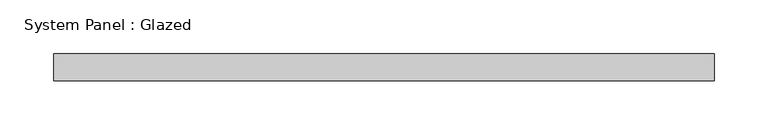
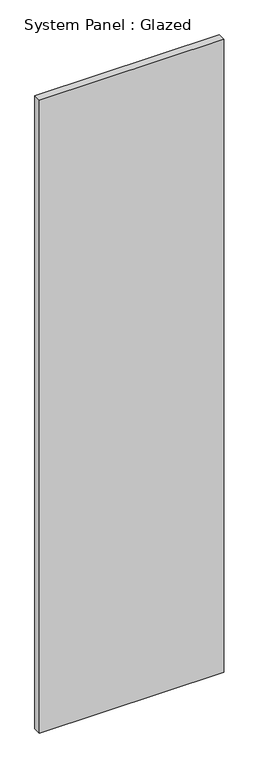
"""IFC4 building model written with IfcOpenShell, lengths in millimetres: plate geometry, System Panel : Glazed."""

import ifcopenshell
import ifcopenshell.guid

model = None  # the IFC model being written
_history = None  # IfcOwnerHistory: only IFC2X3 demands one
_inside = {}  # id of a spatial element -> (the spatial element, [elements in it])
_under = {}  # id of a project, library or spatial element -> (it, [spatial elements below it])
_declared = {}  # id of a project -> (the project, [libraries it declares])
_typed = {}  # id of a type object -> (the type object, [elements of that type])
_made_of = {}  # id of a material, layer set ... -> (it, [elements and type objects made of it])


def new_model(schema):
    """Start an empty IFC model of exactly this schema.

    Asked for "IFC4X3", IfcOpenShell would pick the latest addendum, in which some entities
    have other attributes; the version numbers below select the first issue.
    IFC2X3 requires an IfcOwnerHistory on every rooted entity: one is made here for all.
    """
    global model, _history
    if schema == "IFC4X3":
        model = ifcopenshell.file(schema_version=(4, 3, 0, 0))
    else:
        model = ifcopenshell.file(schema=schema)
    _inside.clear()
    _under.clear()
    _declared.clear()
    _typed.clear()
    _made_of.clear()
    _history = None
    if model.schema == "IFC2X3":
        org = make("IfcOrganization", Name="unknown")
        user = make(
            "IfcPersonAndOrganization",
            ThePerson=make("IfcPerson", FamilyName="unknown"),
            TheOrganization=org,
        )
        app = make(
            "IfcApplication",
            ApplicationDeveloper=org,
            Version="unknown",
            ApplicationFullName="unknown",
            ApplicationIdentifier="unknown",
        )
        _history = make(
            "IfcOwnerHistory",
            OwningUser=user,
            OwningApplication=app,
            ChangeAction="ADDED",
            CreationDate=0,
        )
    return model


def make(cls, **values):
    """One entity of the class cls with the attributes given. An attribute that is None is left unset."""
    return model.create_entity(
        cls, **{name: value for name, value in values.items() if value is not None}
    )


def rooted(cls, **values):
    """An entity with a GlobalId (a new one), such as an element, a storey or a relation."""
    return make(cls, GlobalId=ifcopenshell.guid.new(), OwnerHistory=_history, **values)


def si_unit(unit_type, name, prefix=None):
    """IfcSIUnit, for example si_unit("LENGTHUNIT", "METRE", prefix="MILLI")."""
    return make("IfcSIUnit", UnitType=unit_type, Prefix=prefix, Name=name)


def assignment(units):
    """IfcUnitAssignment: the units of a project."""
    return None if units is None else make("IfcUnitAssignment", Units=units)


def point(xyz):
    """IfcCartesianPoint."""
    return None if xyz is None else make("IfcCartesianPoint", Coordinates=xyz)


def direction(xyz):
    """IfcDirection."""
    return None if xyz is None else make("IfcDirection", DirectionRatios=xyz)


def frame(location, z_axis=None, x_axis=None):
    """IfcAxis2Placement3D, a coordinate frame: its origin and axes. An axis left out is left unset."""
    return make(
        "IfcAxis2Placement3D",
        Location=point(location),
        Axis=direction(z_axis),
        RefDirection=direction(x_axis),
    )


def origin():
    """The frame at (0, 0, 0) with its axes left unset."""
    return frame((0.0, 0.0, 0.0))


def origin_with_axes():
    """The frame at (0, 0, 0) with the z axis (0, 0, 1) and the x axis (1, 0, 0) written out."""
    return frame((0.0, 0.0, 0.0), z_axis=(0.0, 0.0, 1.0), x_axis=(1.0, 0.0, 0.0))


def place(relative_to, where):
    """IfcLocalPlacement: puts the frame where relative to a parent placement (None: the world)."""
    return make(
        "IfcLocalPlacement", PlacementRelTo=relative_to, RelativePlacement=where
    )


def context(
    kind, dimensions, precision=None, world=None, true_north=None, identifier=None
):
    """IfcGeometricRepresentationContext, for example the 3D "Model" context."""
    return make(
        "IfcGeometricRepresentationContext",
        ContextIdentifier=identifier,
        ContextType=kind,
        CoordinateSpaceDimension=dimensions,
        Precision=precision,
        WorldCoordinateSystem=world,
        TrueNorth=true_north,
    )


def project(units=None, contexts=None):
    """IfcProject with its units and contexts."""
    return rooted(
        "IfcProject",
        Name="project",
        RepresentationContexts=contexts,
        UnitsInContext=assignment(units),
    )


def spatial(cls, under=None, at=None, **own):
    """A site, building, storey or space (cls), placed at a placement, below another one or the project."""
    s = rooted(cls, ObjectPlacement=at, **own)
    if under is not None:
        _under.setdefault(under.id(), (under, []))[1].append(s)
    return s


def polyline(points):
    """IfcPolyline through the points."""
    return make("IfcPolyline", Points=[point(p) for p in points])


def outline(outer, holes=None, kind="AREA"):
    """IfcArbitraryClosedProfileDef: a profile drawn as a closed curve; with holes, ...WithVoids."""
    if holes is None:
        return make("IfcArbitraryClosedProfileDef", ProfileType=kind, OuterCurve=outer)
    return make(
        "IfcArbitraryProfileDefWithVoids",
        ProfileType=kind,
        OuterCurve=outer,
        InnerCurves=holes,
    )


def extrude(swept, where, along, depth):
    """IfcExtrudedAreaSolid: the profile swept, set in the frame where, extruded along a direction by depth."""
    return make(
        "IfcExtrudedAreaSolid",
        SweptArea=swept,
        Position=where,
        ExtrudedDirection=direction(along),
        Depth=depth,
    )


def shape(context_of_items, identifier, shape_type, items):
    """IfcShapeRepresentation: the items that make up one representation, for example the "Body"."""
    return make(
        "IfcShapeRepresentation",
        ContextOfItems=context_of_items,
        RepresentationIdentifier=identifier,
        RepresentationType=shape_type,
        Items=items,
    )


def source(mapping_origin, context_of_items, identifier, shape_type, items):
    """IfcRepresentationMap: a shape defined once, which mapped items show again and again."""
    return make(
        "IfcRepresentationMap",
        MappingOrigin=mapping_origin,
        MappedRepresentation=shape(context_of_items, identifier, shape_type, items),
    )


def transform(
    local_origin,
    x_axis=None,
    y_axis=None,
    z_axis=None,
    scale=None,
    scale2=None,
    scale3=None,
    uniform=True,
):
    """IfcCartesianTransformationOperator3D, or its non-uniform kind. x_axis, y_axis, z_axis: its Axis1, 2, 3."""
    if uniform:
        return make(
            "IfcCartesianTransformationOperator3D",
            Axis1=direction(x_axis),
            Axis2=direction(y_axis),
            LocalOrigin=point(local_origin),
            Scale=scale,
            Axis3=direction(z_axis),
        )
    return make(
        "IfcCartesianTransformationOperator3DnonUniform",
        Axis1=direction(x_axis),
        Axis2=direction(y_axis),
        LocalOrigin=point(local_origin),
        Scale=scale,
        Axis3=direction(z_axis),
        Scale2=scale2,
        Scale3=scale3,
    )


def mapped(mapping_source, mapping_target):
    """IfcMappedItem: shows the shape of a source again, moved by a transform."""
    return make(
        "IfcMappedItem", MappingSource=mapping_source, MappingTarget=mapping_target
    )


def made_of(thing, what):
    """Note that an element or type object is made of a material, layer set ...; save() writes the relation."""
    if what is not None:
        _made_of.setdefault(what.id(), (what, []))[1].append(thing)
    return thing


def element(
    cls,
    number,
    at=None,
    inside=None,
    cuts=None,
    type_object=None,
    material=None,
    context=None,
    identifier="Body",
    shape_type=None,
    held_by="IfcProductDefinitionShape",
    body=None,
    shapes=None,
    **own,
):
    """One element of the class cls, such as IfcWall. Its Tag is "e" and its number.

    at: its placement. inside: the storey or other place that contains it. cuts: it is an
    opening in that element (IfcRelVoidsElement). A single representation is given by context,
    identifier, shape_type and body (its items); several are given by shapes. held_by: the class
    of the entity that holds the representations. save() writes the other relations.
    """
    e = rooted(cls, Tag="e%d" % number, ObjectPlacement=at, **own)
    if body is not None:
        shapes = [shape(context, identifier, shape_type, body)]
    if shapes is not None:
        e.Representation = make(held_by, Representations=shapes)
    if inside is not None:
        _inside.setdefault(inside.id(), (inside, []))[1].append(e)
    if cuts is not None:
        rooted(
            "IfcRelVoidsElement", RelatingBuildingElement=cuts, RelatedOpeningElement=e
        )
    if type_object is not None:
        _typed.setdefault(type_object.id(), (type_object, []))[1].append(e)
    return made_of(e, material)


def aggregate(whole, parts):
    """IfcRelAggregates: a whole, such as a stair, and the parts it consists of."""
    return rooted("IfcRelAggregates", RelatingObject=whole, RelatedObjects=parts)


def save(model, path):
    """Write the relations noted so far, then the file.

    IfcRelAggregates (storeys below a building ...), IfcRelContainedInSpatialStructure (elements
    in a storey), IfcRelDefinesByType, IfcRelAssociatesMaterial and IfcRelDeclares: one each for
    every whole, place, type object, material and project.
    """
    for whole, parts in _under.values():
        aggregate(whole, parts)
    for where, things in _inside.values():
        rooted(
            "IfcRelContainedInSpatialStructure",
            RelatedElements=things,
            RelatingStructure=where,
        )
    for kind, things in _typed.values():
        rooted("IfcRelDefinesByType", RelatedObjects=things, RelatingType=kind)
    for what, things in _made_of.values():
        rooted("IfcRelAssociatesMaterial", RelatedObjects=things, RelatingMaterial=what)
    for by, libraries in _declared.values():
        rooted("IfcRelDeclares", RelatingContext=by, RelatedDefinitions=libraries)
    model.write(path)


def system_panel_glazed_0cbce7a5(model_context):
    return source(origin(), model_context, "Body", "SweptSolid", [
        extrude(outline(polyline([(306.6666668, 24.5), (-306.6666668, 24.5), (-306.6666668, 49.5), (306.6666668, 49.5), (306.6666668, 24.5)])), origin_with_axes(), (0.0, 0.0, 1.0), 2225.0),
    ])


if __name__ == "__main__":
    model = new_model("IFC4")
    model_context = context("Model", 3, world=origin())
    ifc_project = project(units=[si_unit("LENGTHUNIT", "METRE", prefix="MILLI")], contexts=[model_context])
    site = spatial("IfcSite", under=ifc_project)
    building = spatial("IfcBuilding", under=site)
    placement = place(None, origin())
    system_panel_glazed_shape = system_panel_glazed_0cbce7a5(model_context)
    element("IfcPlate", 1, ObjectType="System Panel : Glazed", at=placement, inside=building, context=model_context, shape_type="MappedRepresentation", body=[
        mapped(system_panel_glazed_shape, transform((0.0, 0.0, 0.0), x_axis=(1.0, 0.0, 0.0), y_axis=(0.0, 1.0, 0.0), z_axis=(0.0, 0.0, 1.0))),
    ])
    save(model, "model.ifc")
